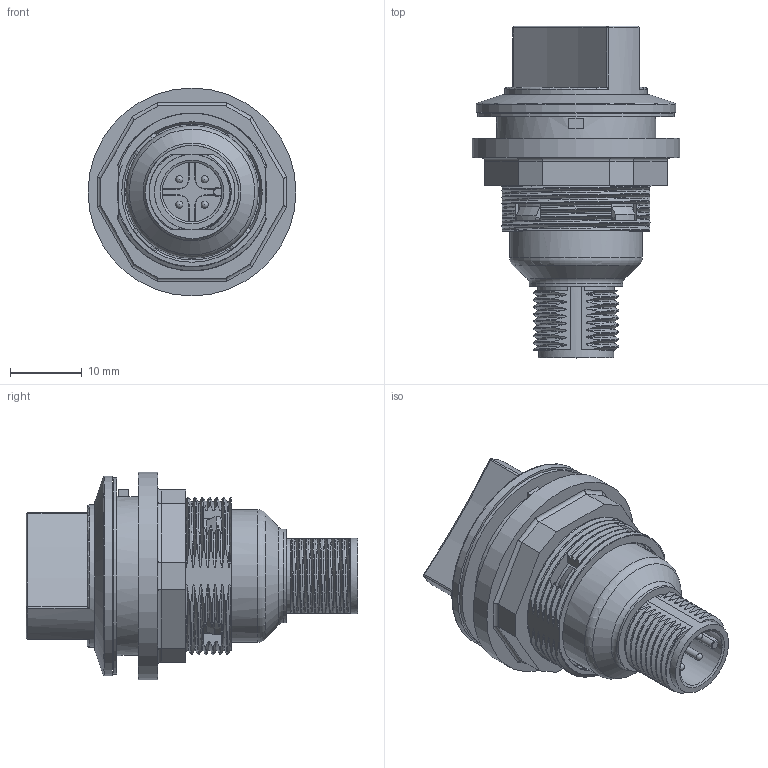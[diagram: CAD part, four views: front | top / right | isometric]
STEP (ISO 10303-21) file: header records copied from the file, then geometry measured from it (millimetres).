
FILE_DESCRIPTION(/* description */ (''),/* implementation_level */ '2;1');
FILE_NAME(/* name */ 'SVAWAOI_C008_vereinfacht.stp',/* time_stamp */ '2024-07-02T09:22:46+02:00',/* author */ ('Sz'),/* organization */ (''),/* preprocessor_version */ 'ST-DEVELOPER v19.2',/* originating_system */ 'Autodesk Inventor 2023',/* authorisation */ '');
FILE_SCHEMA (('AUTOMOTIVE_DESIGN { 1 0 10303 214 3 1 1 }'));
Length unit declared in the file: centimetre
Products named in the file (1): Bauteil6623
Bounding box: 29 x 46.3 x 29 mm (x, y, z)
Volume: 11889.9 mm3; surface area: 6575 mm2
Topology: 1 solids, 3 shells, 422 faces, 1252 edges, 821 vertices
Faces by surface type: bspline 150, cylinder 130, plane 101, torus 17, cone 16, sphere 8
Full cylindrical faces by diameter (mm): 1 x4, 8.3 x1, 10.5 x1, 13 x1, 18.5 x1, 19.85 x1, 20.05 x1, 20.917 x1, 22.2 x1, 22.6 x1, 25.1 x2, 25.35 x1, 27.4 x1, 27.9 x1, 29 x1
Entity records: 32140 total; most frequent: CARTESIAN_POINT 21688, ORIENTED_EDGE 2496, DIRECTION 1439, EDGE_CURVE 1248, VERTEX_POINT 821, B_SPLINE_CURVE_WITH_KNOTS 587, AXIS2_PLACEMENT_3D 517, EDGE_LOOP 449
